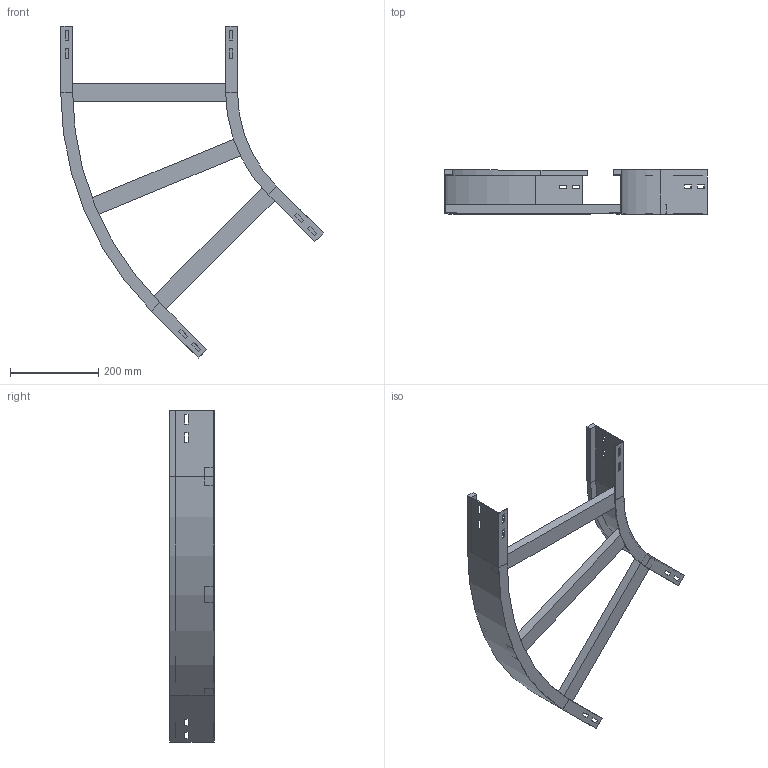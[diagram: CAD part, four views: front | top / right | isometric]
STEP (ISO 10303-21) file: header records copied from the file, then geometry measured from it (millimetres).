
FILE_DESCRIPTION (( 'STEP AP214' ), '1' );
FILE_NAME ('A2_11B3D400.step', '2025-02-21T15:12:23', ( '' ), ( '' ), 'SwSTEP 2.0', 'SolidWorks 2023', '' );
FILE_SCHEMA (( 'AUTOMOTIVE_DESIGN' ));
Length unit declared in the file: millimetre
Products named in the file (4): A2_LONGH.ESTERNO 45°_H100_R300+400; A2_LONGH.INTERNO 45°_H100_R300; TRAVERSINO_400; A2_11B3D400
Assembly tree (5 placements, depth 2):
  A2_11B3D400
    A2_LONGH.INTERNO 45°_H100_R300
    A2_LONGH.ESTERNO 45°_H100_R300+400
    TRAVERSINO_400  x3
Bounding box: 593.93 x 100 x 751.04 mm (x, y, z)
Volume: 1569698 mm3; surface area: 543527.9 mm2
Topology: 5 solids, 5 shells, 134 faces, 340 edges, 216 vertices
Faces by surface type: plane 126, cylinder 8
Entity records: 3821 total; most frequent: CARTESIAN_POINT 646, ORIENTED_EDGE 632, DIRECTION 592, EDGE_CURVE 316, VECTOR 300, LINE 300, VERTEX_POINT 200, EDGE_LOOP 154
